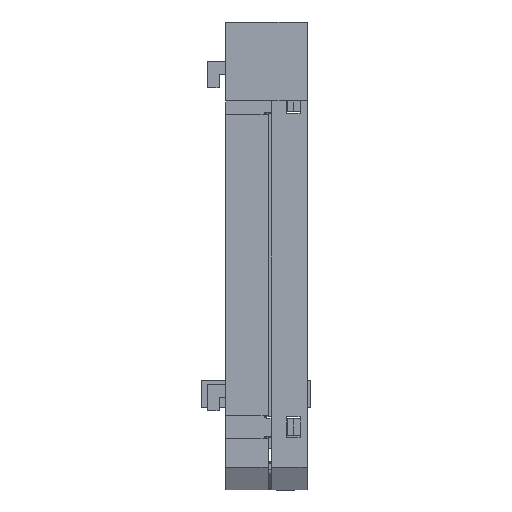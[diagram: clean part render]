
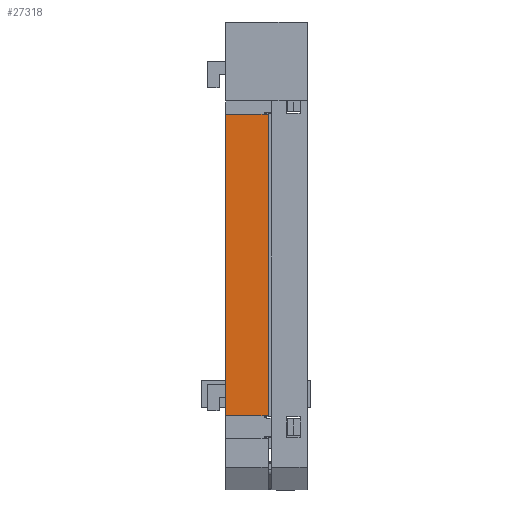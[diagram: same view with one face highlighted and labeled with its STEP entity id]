
A CAD part, front view. The second image highlights one B-rep face of the part: STEP entity #27318.
In plain terms, the highlighted planar face has unit normal (0, -1, 0).
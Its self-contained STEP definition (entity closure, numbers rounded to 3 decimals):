
#3719 = DIRECTION ( 'NONE',  ( 0., 0., -1. ) ) ;
#4080 = VECTOR ( 'NONE', #26272, 1000. ) ;
#4303 = VERTEX_POINT ( 'NONE', #9211 ) ;
#4666 = CARTESIAN_POINT ( 'NONE',  ( 6.5, 0., -57.349 ) ) ;
#5375 = EDGE_CURVE ( 'NONE', #8819, #19487, #6446, .T. ) ;
#5566 = PLANE ( 'NONE',  #6284 ) ;
#5675 = DIRECTION ( 'NONE',  ( 0., 0., 1. ) ) ;
#5680 = EDGE_CURVE ( 'NONE', #4303, #25472, #22314, .T. ) ;
#5683 = CARTESIAN_POINT ( 'NONE',  ( 0., 0., -57.349 ) ) ;
#5747 = CARTESIAN_POINT ( 'NONE',  ( 0., 0., 0. ) ) ;
#6284 = AXIS2_PLACEMENT_3D ( 'NONE', #15846, #21057, #5675 ) ;
#6446 = LINE ( 'NONE', #14234, #14467 ) ;
#8661 = ORIENTED_EDGE ( 'NONE', *, *, #5680, .T. ) ;
#8819 = VERTEX_POINT ( 'NONE', #17828 ) ;
#9211 = CARTESIAN_POINT ( 'NONE',  ( 0., 0., -11.141 ) ) ;
#9901 = ORIENTED_EDGE ( 'NONE', *, *, #16697, .F. ) ;
#10115 = EDGE_LOOP ( 'NONE', ( #8661, #24775, #18651, #9901 ) ) ;
#10545 = DIRECTION ( 'NONE',  ( 0., 0., -1. ) ) ;
#14234 = CARTESIAN_POINT ( 'NONE',  ( 6.5, 0., 0. ) ) ;
#14467 = VECTOR ( 'NONE', #3719, 1000. ) ;
#14920 = LINE ( 'NONE', #29998, #20997 ) ;
#15846 = CARTESIAN_POINT ( 'NONE',  ( 7., 0., 0. ) ) ;
#16697 = EDGE_CURVE ( 'NONE', #4303, #8819, #14920, .T. ) ;
#17828 = CARTESIAN_POINT ( 'NONE',  ( 6.5, 0., -11.141 ) ) ;
#18110 = DIRECTION ( 'NONE',  ( 1., 0., 0. ) ) ;
#18493 = LINE ( 'NONE', #5683, #4080 ) ;
#18651 = ORIENTED_EDGE ( 'NONE', *, *, #5375, .F. ) ;
#19088 = EDGE_CURVE ( 'NONE', #25472, #19487, #18493, .T. ) ;
#19487 = VERTEX_POINT ( 'NONE', #4666 ) ;
#20997 = VECTOR ( 'NONE', #18110, 1000. ) ;
#21057 = DIRECTION ( 'NONE',  ( 0., 1., 0. ) ) ;
#22314 = LINE ( 'NONE', #5747, #29965 ) ;
#24775 = ORIENTED_EDGE ( 'NONE', *, *, #19088, .T. ) ;
#25472 = VERTEX_POINT ( 'NONE', #31732 ) ;
#26272 = DIRECTION ( 'NONE',  ( 1., 0., 0. ) ) ;
#26596 = FACE_OUTER_BOUND ( 'NONE', #10115, .T. ) ;
#27318 = ADVANCED_FACE ( 'NONE', ( #26596 ), #5566, .F. ) ;
#29965 = VECTOR ( 'NONE', #10545, 1000. ) ;
#29998 = CARTESIAN_POINT ( 'NONE',  ( 0., 0., -11.141 ) ) ;
#31732 = CARTESIAN_POINT ( 'NONE',  ( 0., 0., -57.349 ) ) ;
